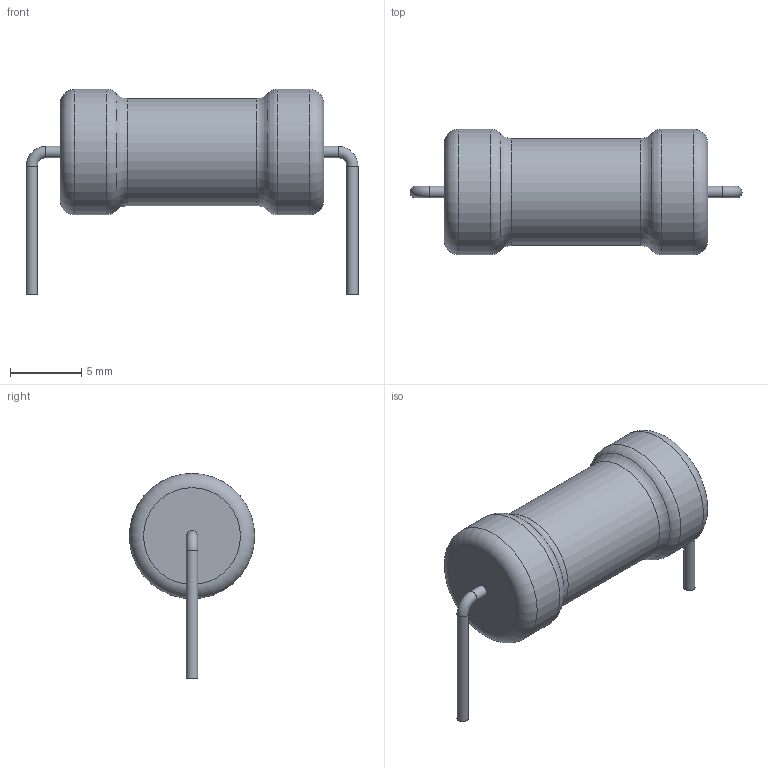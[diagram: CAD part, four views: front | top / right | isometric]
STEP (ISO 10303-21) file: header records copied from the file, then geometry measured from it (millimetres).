
FILE_DESCRIPTION(('STEP AP203'), '1');
FILE_NAME('C2-33-2 (3)', '', ('UNSPECIFIED'), ('UNSPECIFIED'), 'ASCON STEP Converter 1.6', 'ASCON Math Kernel', '');
FILE_SCHEMA(('CONFIG_CONTROL_DESIGN'));
Length unit declared in the file: millimetre
Bounding box: 23.3 x 8.8 x 14.4 mm (x, y, z)
Volume: 952 mm3; surface area: 633.4 mm2
Topology: 1 solids, 1 shells, 19 faces, 33 edges, 18 vertices
Faces by surface type: torus 8, cylinder 7, plane 4
Full cylindrical faces by diameter (mm): 0.8 x4, 7.517 x1, 8.8 x2
Entity records: 570 total; most frequent: DIRECTION 76, CARTESIAN_POINT 56, AXIS2_PLACEMENT_3D 38, EDGE_LOOP 36, ORIENTED_EDGE 36, FACE_OUTER_BOUND 30, COLOUR_RGB 20, FILL_AREA_STYLE_COLOUR 20
